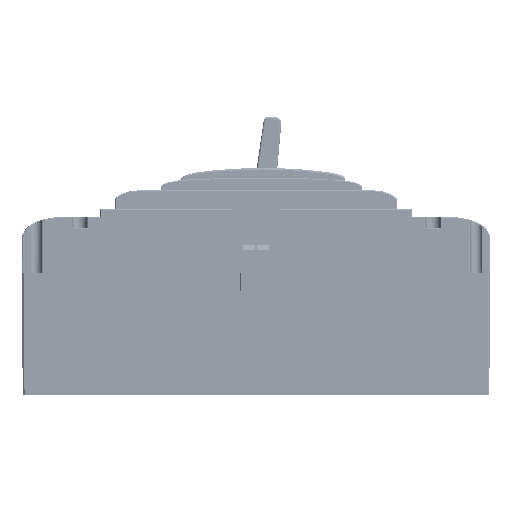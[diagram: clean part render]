
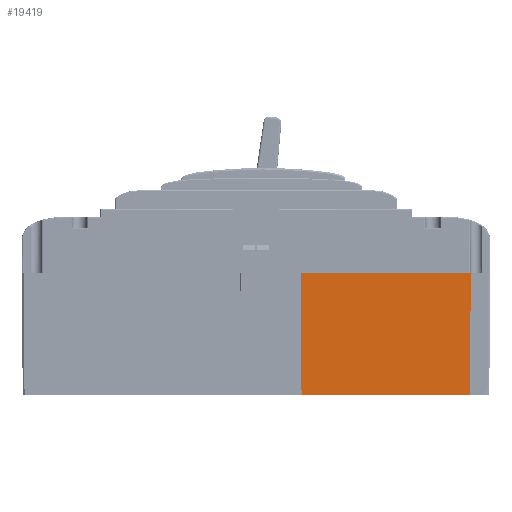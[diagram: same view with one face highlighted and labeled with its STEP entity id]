
A CAD part, front view. The second image highlights one B-rep face of the part: STEP entity #19419.
In plain terms, the highlighted planar face has unit normal (0, -1, -0.005).
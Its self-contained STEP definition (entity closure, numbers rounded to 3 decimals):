
#799=DIRECTION('',(-1.,0.,0.));
#800=VECTOR('',#799,93.25);
#801=CARTESIAN_POINT('',(246.4,0.2,66.5));
#802=LINE('',#801,#800);
#1441=DIRECTION('',(-1.,0.,0.));
#1442=VECTOR('',#1441,92.545);
#1443=CARTESIAN_POINT('',(246.047,0.553,
-0.6));
#1444=LINE('',#1443,#1442);
#1445=DIRECTION('',(-0.005,-0.005,1.));
#1446=VECTOR('',#1445,67.102);
#1447=CARTESIAN_POINT('',(153.503,0.553,
-0.6));
#1448=LINE('',#1447,#1446);
#1453=DIRECTION('',(0.005,-0.005,1.));
#1454=VECTOR('',#1453,67.102);
#1455=CARTESIAN_POINT('',(246.047,0.553,
-0.6));
#1456=LINE('',#1455,#1454);
#14802=CARTESIAN_POINT('',(246.4,0.2,
66.5));
#14803=VERTEX_POINT('',#14802);
#14804=CARTESIAN_POINT('',(153.15,0.2,
66.5));
#14805=VERTEX_POINT('',#14804);
#15277=CARTESIAN_POINT('',(153.503,0.553,
-0.6));
#15278=VERTEX_POINT('',#15277);
#15279=CARTESIAN_POINT('',(246.047,0.553,
-0.6));
#15280=VERTEX_POINT('',#15279);
#19406=CARTESIAN_POINT('',(197.025,0.2,66.501));
#19407=DIRECTION('',(0.,-1.,-0.005));
#19408=DIRECTION('',(0.,-0.005,1.));
#19409=AXIS2_PLACEMENT_3D('',#19406,#19407,#19408);
#19410=PLANE('',#19409);
#19411=ORIENTED_EDGE('',*,*,#18695,.F.);
#19413=ORIENTED_EDGE('',*,*,#19412,.F.);
#19415=ORIENTED_EDGE('',*,*,#19414,.T.);
#19416=ORIENTED_EDGE('',*,*,#19398,.T.);
#19417=EDGE_LOOP('',(#19411,#19413,#19415,#19416));
#19418=FACE_OUTER_BOUND('',#19417,.F.);
#19419=ADVANCED_FACE('',(#19418),#19410,.T.);
#18695=EDGE_CURVE('',#14803,#14805,#802,.T.);
#19398=EDGE_CURVE('',#15278,#14805,#1448,.T.);
#19412=EDGE_CURVE('',#15280,#14803,#1456,.T.);
#19414=EDGE_CURVE('',#15280,#15278,#1444,.T.);
